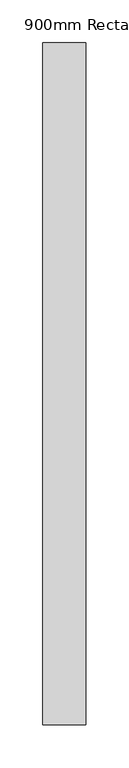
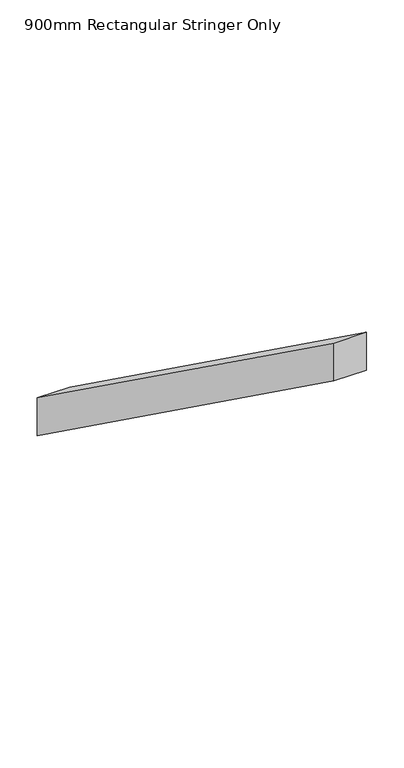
"""IFC4 building model written with IfcOpenShell, lengths in millimetres: railing geometry, 900mm Rectangular Stringer Only."""

from ifc_helpers import new_model, si_unit, frame, origin, place, context, project, spatial, polyline, outline, extrude, source, transform, mapped, element, save


def railing_900mm_rectangular_stringer_only_fa480b6c(model_context):
    return source(origin(), model_context, "Body", "SweptSolid", [
        extrude(outline(polyline([(3644.9, -1652.7), (3644.9, -1714.2834666), (2850.0832, -1142.7834666), (2850.0832, -1081.2), (3644.9, -1652.7)])), frame((-5143.1, 0.0, 0.0), z_axis=(1.0, 0.0, 0.0), x_axis=(0.0, 1.0, 0.0)), (0.0, 0.0, 1.0), 50.0),
    ])


if __name__ == "__main__":
    model = new_model("IFC4")
    model_context = context("Model", 3, world=origin())
    ifc_project = project(units=[si_unit("LENGTHUNIT", "METRE", prefix="MILLI")], contexts=[model_context])
    site = spatial("IfcSite", under=ifc_project)
    building = spatial("IfcBuilding", under=site)
    placement = place(None, origin())
    railing_900mm_rectangular_stringer_only_shape = railing_900mm_rectangular_stringer_only_fa480b6c(model_context)
    element("IfcRailing", 1, ObjectType="900mm Rectangular Stringer Only", at=placement, inside=building, context=model_context, shape_type="MappedRepresentation", body=[
        mapped(railing_900mm_rectangular_stringer_only_shape, transform((0.0, 0.0, 0.0), x_axis=(1.0, 0.0, 0.0), y_axis=(0.0, 1.0, 0.0), z_axis=(0.0, 0.0, 1.0))),
    ])
    save(model, "model.ifc")
